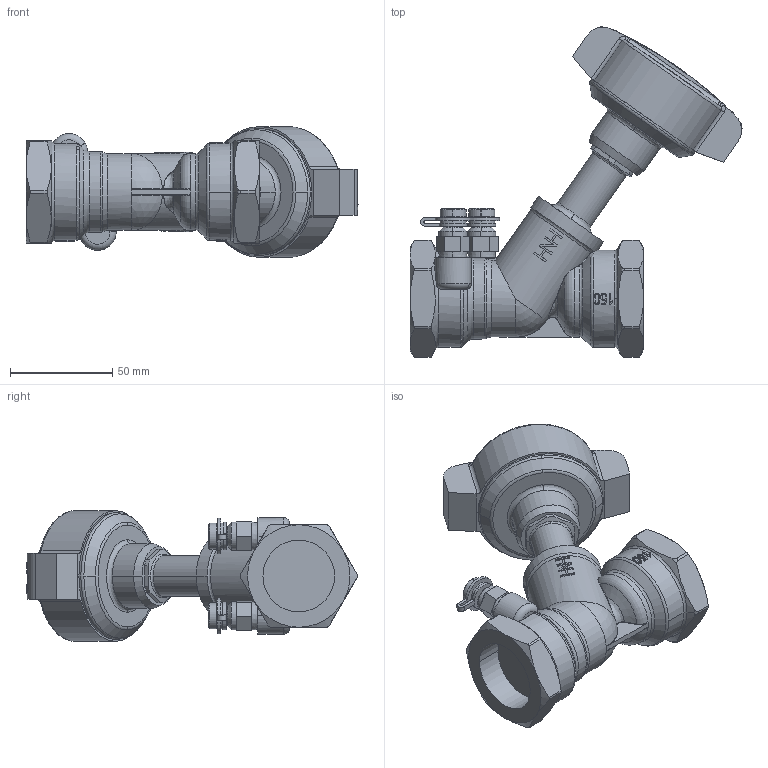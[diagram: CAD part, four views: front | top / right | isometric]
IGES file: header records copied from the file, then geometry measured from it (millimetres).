
Global section: file name: No Iges File Name specified; native system: AutoDesk Inventor R12.0; preprocessor: AutoDesk Inventor Iges Exporter R12.0; date: 20110307.145110; units: millimetre
Bounding box: 162.12 x 161.37 x 63.85 mm (x, y, z)
Volume: 330384.4 mm3; surface area: 49790 mm2
Topology: 1 solids, 1 shells, 784 faces, 2030 edges, 1311 vertices
Faces by surface type: plane 350, bspline 241, cylinder 106, cone 37, revolution 25, torus 23, sphere 2
